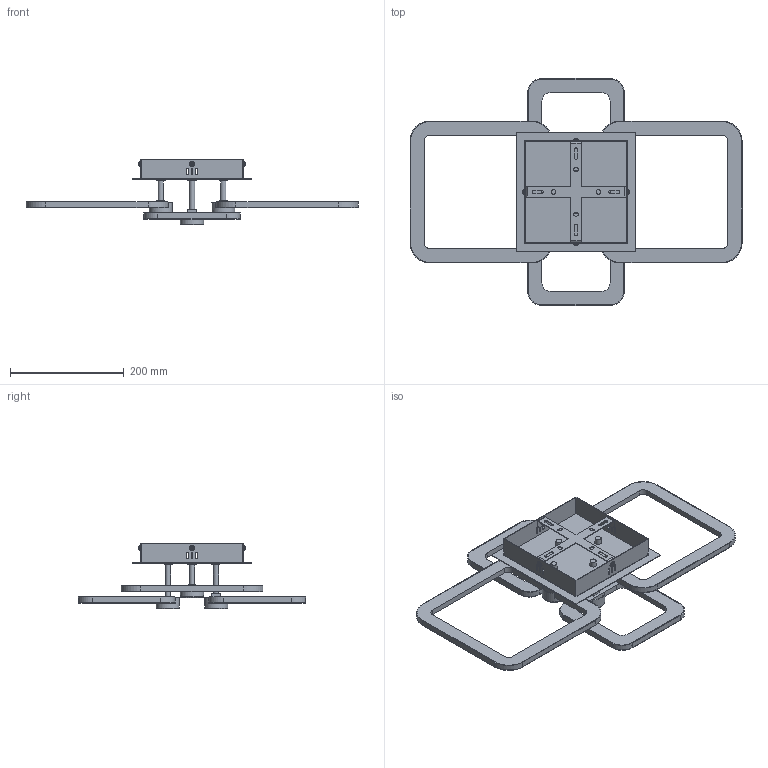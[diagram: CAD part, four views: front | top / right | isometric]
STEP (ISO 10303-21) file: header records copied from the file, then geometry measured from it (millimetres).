
FILE_DESCRIPTION(/* description */ (''),/* implementation_level */ '2;1');
FILE_NAME(/* name */ 'VT-7718.stp',/* time_stamp */ '2026-06-17T11:20:11+08:00',/* author */ (''),/* organization */ (''),/* preprocessor_version */ 'ST-DEVELOPER v16',/* originating_system */ 'SIEMENS PLM Software NX 10.0',/* authorisation */ '');
FILE_SCHEMA (('AP203_CONFIGURATION_CONTROLLED_3D_DESIGN_OF_MECHANICAL_PARTS_AND_ASSEMBLIES_MIM_LF { 1 0 10303 403 2 1 2}'));
Length unit declared in the file: millimetre
Products named in the file (1): 141D07FA5r1ys
Bounding box: 585 x 400 x 116 mm (x, y, z)
Volume: 871347.9 mm3; surface area: 515981.2 mm2
Topology: 23 solids, 23 shells, 604 faces, 1526 edges, 1002 vertices
Faces by surface type: plane 316, cylinder 220, torus 36, bspline 16, cone 16
Full cylindrical faces by diameter (mm): 3.5 x4, 7 x4, 9.5 x4, 9.6 x4, 10.5 x8, 16 x4, 39 x4, 41 x4
Entity records: 33388 total; most frequent: CARTESIAN_POINT 18777, DIRECTION 3038, ORIENTED_EDGE 2896, EDGE_CURVE 1448, AXIS2_PLACEMENT_3D 1109, VERTEX_POINT 980, LINE 820, VECTOR 820
